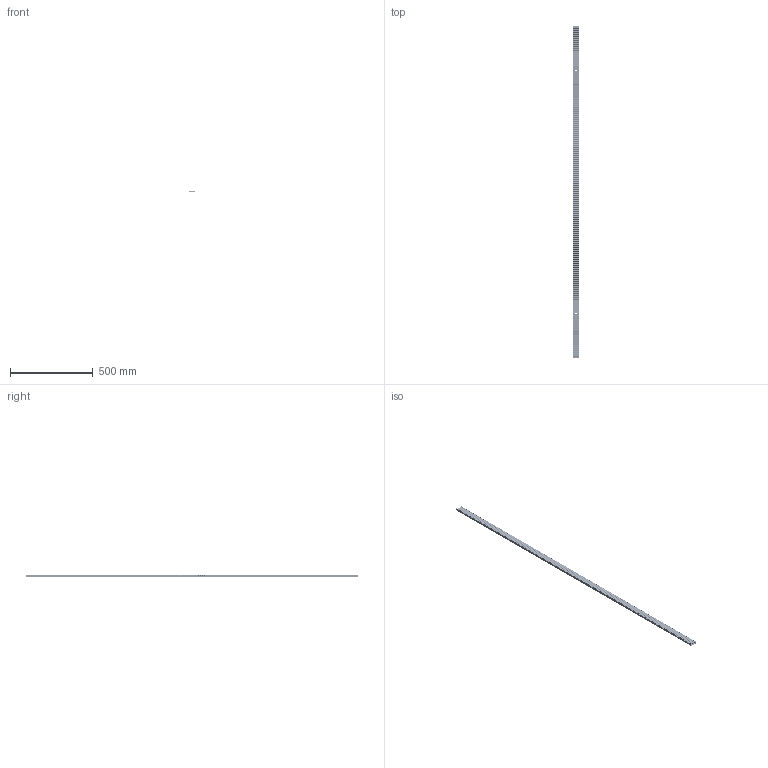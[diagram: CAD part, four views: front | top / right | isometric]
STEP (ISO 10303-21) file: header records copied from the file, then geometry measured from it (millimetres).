
FILE_DESCRIPTION(/* description */ ('Unknown'),/* implementation_level */ '2;1');
FILE_NAME(/* name */ 'Listwa T40C_zaktualizowana',/* time_stamp */ '2025-11-26T10:18:44+01:00',/* author */ ('Unknown'),/* organization */ ('Unknown'),/* preprocessor_version */ 'ST-DEVELOPER v20',/* originating_system */ 'Solid Edge',/* authorisation */ 'Unknown');
FILE_SCHEMA (('AUTOMOTIVE_DESIGN {1 0 10303 214 3 1 1}'));
Length unit declared in the file: millimetre
Products named in the file (4): Listwa T40C; Ceownik T40C; Rolka T 40C; Nit,
Assembly tree (333 placements, depth 2):
  Listwa T40C
    Ceownik T40C
    Rolka T 40C  x166
    Nit,  x166
Bounding box: 39.7 x 2000 x 16.52 mm (x, y, z)
Volume: 690368.7 mm3; surface area: 659074.8 mm2
Topology: 333 solids, 333 shells, 3418 faces, 6264 edges, 4176 vertices
Faces by surface type: cylinder 1706, plane 1380, torus 332
Full cylindrical faces by diameter (mm): 2 x166, 4 x166, 4.2 x332, 4.3 x166, 5.8 x166, 6 x166, 8.3 x332, 11.25 x166
Entity records: 17711 total; most frequent: DIRECTION 3306, CARTESIAN_POINT 2624, ORIENTED_EDGE 1938, AXIS2_PLACEMENT_3D 1555, EDGE_LOOP 1480, FACE_BOUND 1480, EDGE_CURVE 969, VERTEX_POINT 873
